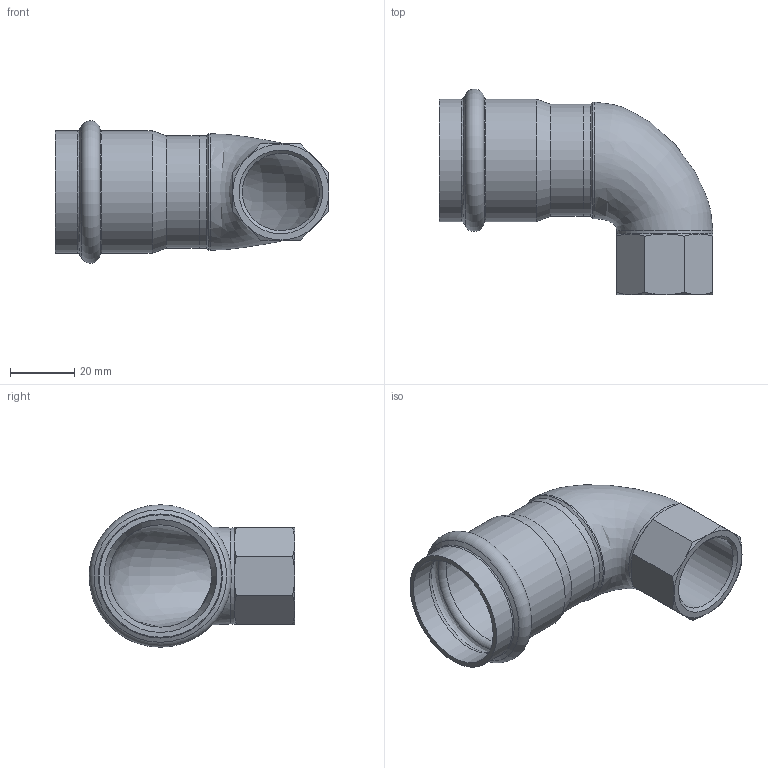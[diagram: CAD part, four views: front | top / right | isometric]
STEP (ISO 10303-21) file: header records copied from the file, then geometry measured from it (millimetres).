
FILE_DESCRIPTION((''),'2;1');
FILE_NAME('G:\Nirosan-Schmiedefeld\Technics\CAD\Bauteile VA\035\69090ig3534(0).stp','2012-04-12T13:39:00',('herberg'),(''),'Autodesk Inventor 2009','Autodesk Inventor 2009','');
FILE_SCHEMA(('AUTOMOTIVE_DESIGN { 1 0 10303 214 1 1 1 1 }'));
Length unit declared in the file: millimetre
Products named in the file (3): 69090ig3534(0); HM_6924335(1); G_69090ig3534(0)
Assembly tree (2 placements, depth 2):
  69090ig3534(0)
    HM_6924335(1)
    G_69090ig3534(0)
Bounding box: 85.5 x 64.24 x 44.49 mm (x, y, z)
Volume: 21586.3 mm3; surface area: 22697.9 mm2
Topology: 2 solids, 2 shells, 56 faces, 126 edges, 75 vertices
Faces by surface type: cone 23, plane 13, cylinder 11, bspline 6, torus 3
Full cylindrical faces by diameter (mm): 25.6 x1, 30 x1, 32 x2, 35 x2, 35.25 x2, 36.4 x1, 38.25 x2
Entity records: 1944 total; most frequent: CARTESIAN_POINT 794, DIRECTION 232, ORIENTED_EDGE 198, AXIS2_PLACEMENT_3D 112, EDGE_CURVE 99, EDGE_LOOP 86, VERTEX_POINT 73, CIRCLE 57
